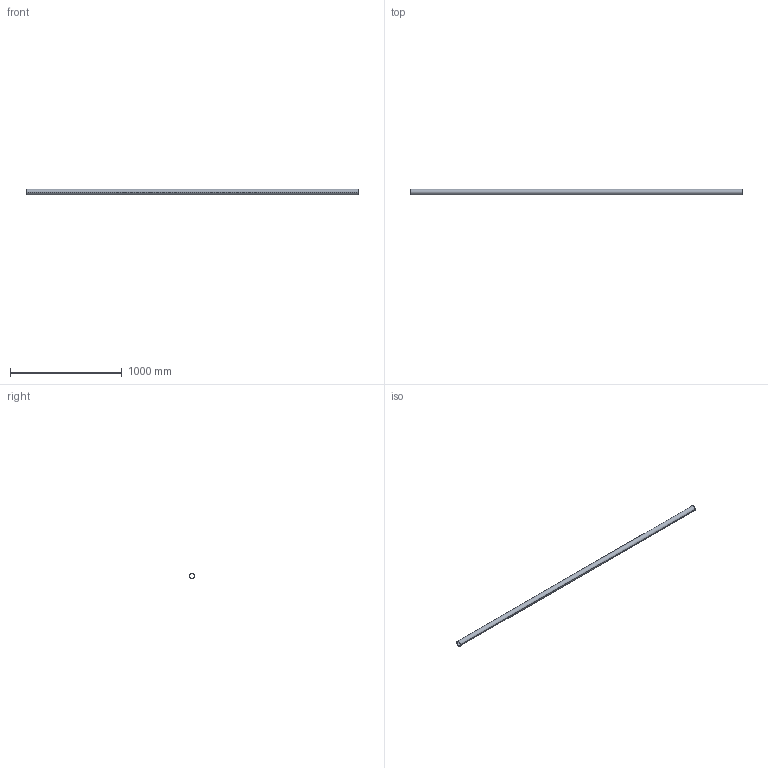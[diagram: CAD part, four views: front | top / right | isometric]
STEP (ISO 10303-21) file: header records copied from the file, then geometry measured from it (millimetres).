
FILE_DESCRIPTION (( 'STEP AP214' ), '1' );
FILE_NAME ('CCJ029-REP.211 - MAIN COURANTE PLANCHER INFERIEUR C2-C3.STEP', '2024-01-11T12:39:12', ( '' ), ( '' ), 'SwSTEP 2.0', 'SolidWorks 2021', '' );
FILE_SCHEMA (( 'AUTOMOTIVE_DESIGN' ));
Length unit declared in the file: millimetre
Products named in the file (1): CCJ029-REP.211 - MAIN COURANTE PLANCHER INFERIEUR C2-C3
Bounding box: 2969 x 48.3 x 48.3 mm (x, y, z)
Volume: 1067986 mm3; surface area: 855108.2 mm2
Topology: 1 solids, 1 shells, 6 faces, 12 edges, 8 vertices
Faces by surface type: cylinder 4, plane 2
Entity records: 202 total; most frequent: DIRECTION 34, CARTESIAN_POINT 27, ORIENTED_EDGE 24, AXIS2_PLACEMENT_3D 15, EDGE_CURVE 12, CIRCLE 8, VERTEX_POINT 8, EDGE_LOOP 8
